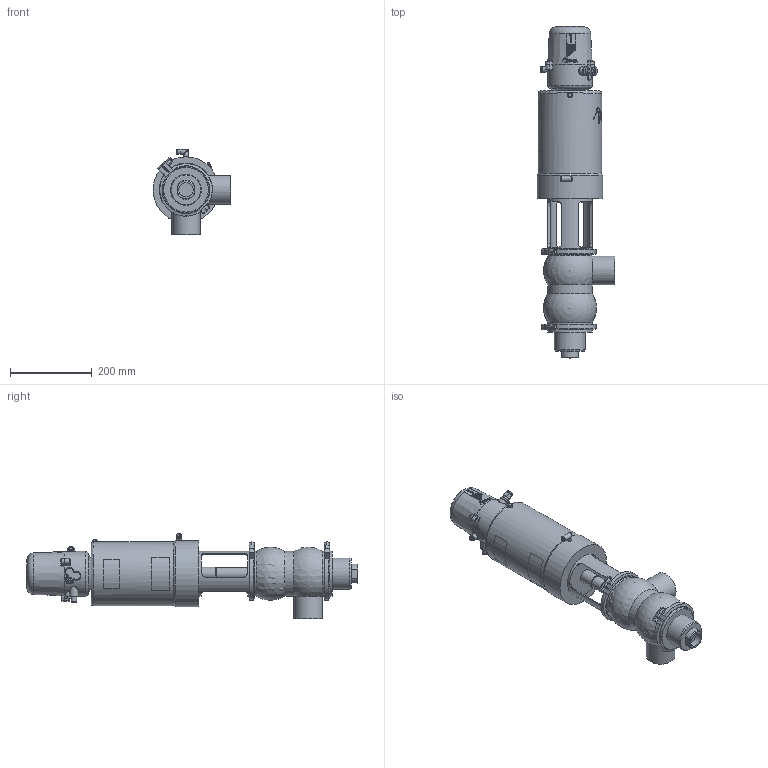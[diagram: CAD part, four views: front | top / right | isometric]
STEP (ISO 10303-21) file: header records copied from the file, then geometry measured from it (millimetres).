
FILE_DESCRIPTION (( 'STEP AP214' ), '1' );
FILE_NAME ('INNOVA S DB-90 W DIN 065 & C-TOP S_10.251.16.0018.STEP', '2024-08-19T10:13:44', ( '' ), ( '' ), 'SwSTEP 2.0', 'SolidWorks 2023', '' );
FILE_SCHEMA (( 'AUTOMOTIVE_DESIGN' ));
Length unit declared in the file: millimetre
Products named in the file (7): 10.426.15.0001_C-TOP S - 1 EV; 10.250.15.0002_Type S T2; 10.251.15.0010_DIN 065; INNOVA S DB-90 W DIN 065 & C-TOP S_10.251.16.0018; 10.251.15.0001_DN 065; 10.240.15.0001_DN 065; 10.251.15.0002_DN 065
Assembly tree (7 placements, depth 2):
  INNOVA S DB-90 W DIN 065 & C-TOP S_10.251.16.0018
    10.251.15.0001_DN 065
    10.250.15.0002_Type S T2
    10.426.15.0001_C-TOP S - 1 EV
    10.251.15.0010_DIN 065
    10.240.15.0001_DN 065  x2
    10.251.15.0002_DN 065
Bounding box: 190.5 x 812 x 209 mm (x, y, z)
Volume: 9386738 mm3; surface area: 564143.2 mm2
Topology: 7 solids, 7 shells, 1186 faces, 2859 edges, 1900 vertices
Faces by surface type: plane 414, cylinder 369, cone 202, bspline 160, torus 33, sphere 8
Full cylindrical faces by diameter (mm): 0.371 x17, 0.512 x16, 0.658 x16, 0.795 x16, 0.94 x15, 1.098 x15, 1.241 x13, 1.382 x13, 1.523 x11, 1.669 x10, 2.201 x1, 4.2 x2, 5 x1, 5.5 x2, 6 x3, 6.15 x1, 8 x5, 8.5 x1, 10 x1, 10.5 x2, 11 x2, 12.5 x6, 13 x2, 13.5 x2, 17 x3, 20 x2, 22 x2, 30.5 x1, 32 x1, 35 x1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
Entity records: 59270 total; most frequent: CARTESIAN_POINT 28519, ORIENTED_EDGE 4582, DIRECTION 3695, EDGE_CURVE 2291, VERTEX_POINT 1623, EDGE_LOOP 1582, AXIS2_PLACEMENT_3D 1508, FACE_OUTER_BOUND 1341
